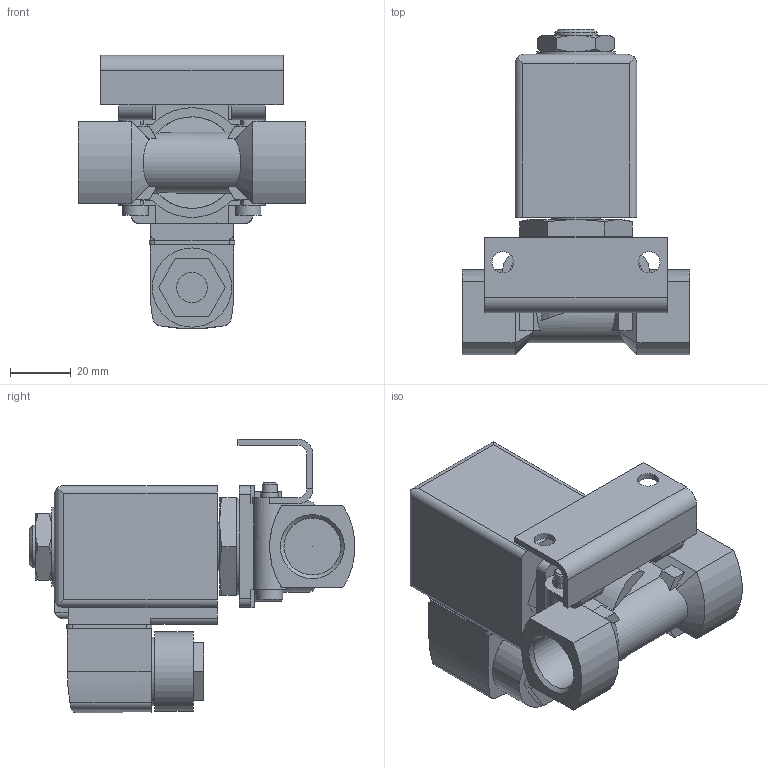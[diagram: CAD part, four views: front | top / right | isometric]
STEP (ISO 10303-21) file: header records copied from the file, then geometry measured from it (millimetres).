
FILE_DESCRIPTION(/* description */ ('STEP AP203'),/* implementation_level */ '2;1');
FILE_NAME(/* name */ '0255-135950-2-2-way_Solenoid_Valve',/* time_stamp */ '2024-01-02T16:28:01+01:00',/* author */ ('License CC BY-ND 4.0'),/* organization */ ('CADENAS'),/* preprocessor_version */ 'ST-DEVELOPER v19.3',/* originating_system */ 'PARTsolutions',/* authorisation */ ' ');
FILE_SCHEMA (('CONFIG_CONTROL_DESIGN'));
Length unit declared in the file: millimetre
Products named in the file (1): 0255-135950-2-2-way Solenoid Valve
Bounding box: 74.5 x 106.82 x 89.7 mm (x, y, z)
Volume: 186265.1 mm3; surface area: 39431.6 mm2
Topology: 1 solids, 1 shells, 285 faces, 739 edges, 469 vertices
Faces by surface type: plane 188, cylinder 68, cone 29
Full cylindrical faces by diameter (mm): 0.2 x1, 5 x4, 5.8 x2, 6.3 x2, 7 x2, 8.5 x2, 10 x1, 14 x1, 15.8 x1, 18.631 x2, 22.5 x1, 25.9 x1, 26 x1, 31.5 x1
Entity records: 10585 total; most frequent: CARTESIAN_POINT 1702, ORIENTED_EDGE 1412, DIRECTION 1398, EDGE_CURVE 706, AXIS2_PLACEMENT_3D 480, VERTEX_POINT 464, LINE 438, VECTOR 438
